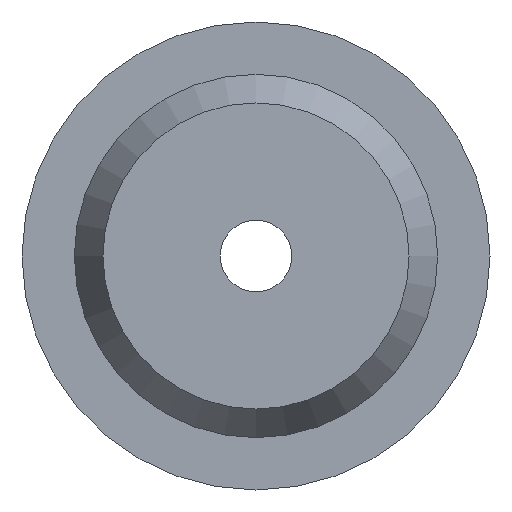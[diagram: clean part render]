
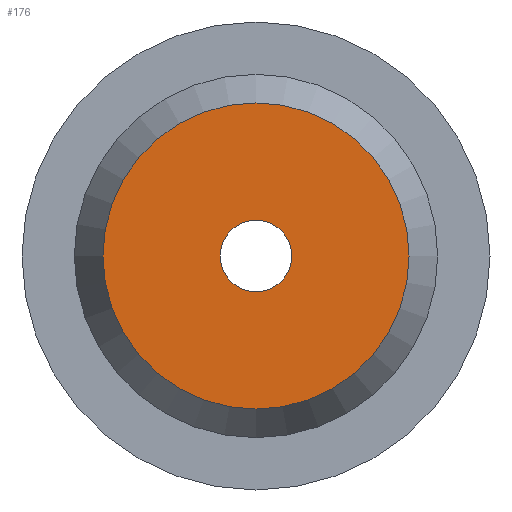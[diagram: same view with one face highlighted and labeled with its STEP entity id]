
A CAD part, front view. The second image highlights one B-rep face of the part: STEP entity #176.
In plain terms, the highlighted planar face has unit normal (0, -1, 0).
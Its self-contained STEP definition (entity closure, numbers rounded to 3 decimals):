
#94=CARTESIAN_POINT('',(-1.3,0.0,0.));
#95=VERTEX_POINT('',#94);
#96=CARTESIAN_POINT('',(0.0,0.0,0.0));
#97=DIRECTION('',(0.0,1.0,0.0));
#98=DIRECTION('',(1.0,0.0,0.0));
#99=AXIS2_PLACEMENT_3D('',#96,#97,#98);
#100=CIRCLE('',#99,1.3);
#101=EDGE_CURVE('',#95,#95,#100,.T.);
#133=CARTESIAN_POINT('',(5.561,0.0,0.));
#134=VERTEX_POINT('',#133);
#135=CARTESIAN_POINT('',(0.0,0.0,0.0));
#136=DIRECTION('',(0.0,1.0,0.0));
#137=DIRECTION('',(-1.0,0.0,0.0));
#138=AXIS2_PLACEMENT_3D('',#135,#136,#137);
#139=CIRCLE('',#138,5.561);
#140=EDGE_CURVE('',#134,#134,#139,.T.);
#165=CARTESIAN_POINT('',(3.3,0.0,0.0));
#166=DIRECTION('',(0.0,-1.0,0.0));
#167=DIRECTION('',(0.0,0.0,-1.0));
#168=AXIS2_PLACEMENT_3D('',#165,#166,#167);
#169=PLANE('',#168);
#170=ORIENTED_EDGE('',*,*,#140,.F.);
#171=EDGE_LOOP('',(#170));
#172=FACE_OUTER_BOUND('',#171,.T.);
#173=ORIENTED_EDGE('',*,*,#101,.T.);
#174=EDGE_LOOP('',(#173));
#175=FACE_BOUND('',#174,.T.);
#176=ADVANCED_FACE('',(#172,#175),#169,.T.);
